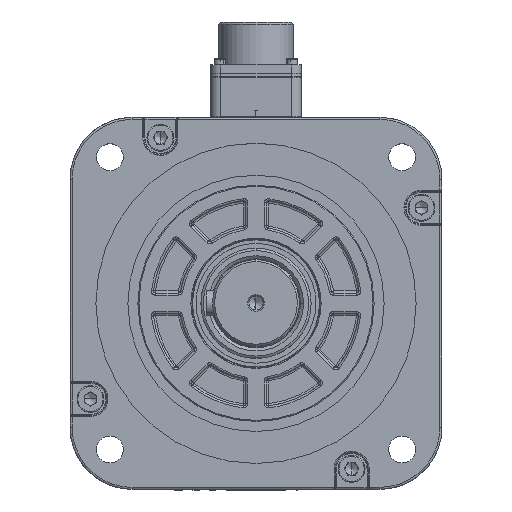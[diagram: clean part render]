
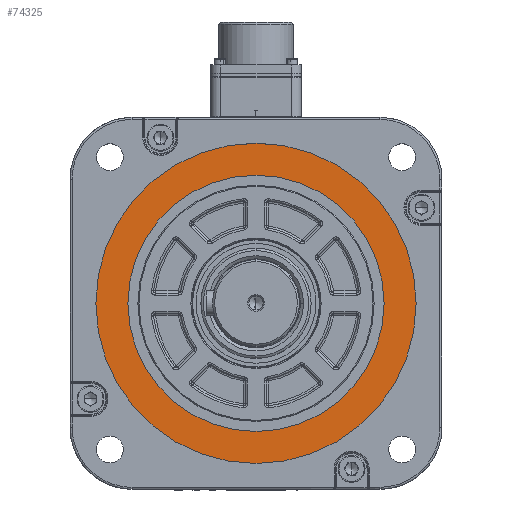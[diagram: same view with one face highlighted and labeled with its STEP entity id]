
A CAD part, top view. The second image highlights one B-rep face of the part: STEP entity #74325.
In plain terms, the highlighted planar face has unit normal (0, 0, 1) as drawn and (0, 0, -1) by its records, which use the part's own axes.
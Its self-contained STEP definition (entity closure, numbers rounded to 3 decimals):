
#2592 = AXIS2_PLACEMENT_3D ( 'NONE', #73674, #164804, #86734 ) ;
#5210 = CARTESIAN_POINT ( 'NONE',  ( -62., 0., 1.5 ) ) ;
#11086 = EDGE_CURVE ( 'NONE', #162761, #46255, #55220, .T. ) ;
#11549 = CARTESIAN_POINT ( 'NONE',  ( 0., 0., 1.5 ) ) ;
#17884 = VERTEX_POINT ( 'NONE', #5210 ) ;
#23169 = CARTESIAN_POINT ( 'NONE',  ( 0., 0., 1.5 ) ) ;
#35400 = CARTESIAN_POINT ( 'NONE',  ( 62., 0., 1.5 ) ) ;
#37935 = AXIS2_PLACEMENT_3D ( 'NONE', #11549, #102463, #141811 ) ;
#42012 = CARTESIAN_POINT ( 'NONE',  ( -77.5, 0., 1.5 ) ) ;
#42253 = EDGE_LOOP ( 'NONE', ( #137726, #152639 ) ) ;
#45480 = ORIENTED_EDGE ( 'NONE', *, *, #11086, .T. ) ;
#45729 = EDGE_LOOP ( 'NONE', ( #45480, #105539 ) ) ;
#46255 = VERTEX_POINT ( 'NONE', #54788 ) ;
#54788 = CARTESIAN_POINT ( 'NONE',  ( 77.5, 0., 1.5 ) ) ;
#55220 = CIRCLE ( 'NONE', #37935, 77.5 ) ;
#57539 = VERTEX_POINT ( 'NONE', #35400 ) ;
#58264 = DIRECTION ( 'NONE',  ( -1., 0., 0. ) ) ;
#72760 = CIRCLE ( 'NONE', #97541, 77.5 ) ;
#73000 = PLANE ( 'NONE',  #135292 ) ;
#73674 = CARTESIAN_POINT ( 'NONE',  ( 0., 0., 1.5 ) ) ;
#74325 = ADVANCED_FACE ( 'NONE', ( #82021, #80047 ), #73000, .T. ) ;
#75407 = DIRECTION ( 'NONE',  ( -1., 0., 0. ) ) ;
#75451 = DIRECTION ( 'NONE',  ( -1., 0., 0. ) ) ;
#80047 = FACE_BOUND ( 'NONE', #42253, .T. ) ;
#82021 = FACE_OUTER_BOUND ( 'NONE', #45729, .T. ) ;
#86734 = DIRECTION ( 'NONE',  ( -1., 0., 0. ) ) ;
#86791 = DIRECTION ( 'NONE',  ( 0., 0., -1. ) ) ;
#92321 = CIRCLE ( 'NONE', #2592, 62. ) ;
#97407 = EDGE_CURVE ( 'NONE', #57539, #17884, #92321, .T. ) ;
#97541 = AXIS2_PLACEMENT_3D ( 'NONE', #165441, #86791, #75407 ) ;
#99106 = CARTESIAN_POINT ( 'NONE',  ( 0., 0., 1.5 ) ) ;
#99658 = DIRECTION ( 'NONE',  ( 0., 0., -1. ) ) ;
#102463 = DIRECTION ( 'NONE',  ( 0., 0., -1. ) ) ;
#105539 = ORIENTED_EDGE ( 'NONE', *, *, #167976, .T. ) ;
#114011 = DIRECTION ( 'NONE',  ( 0., 0., 1. ) ) ;
#121519 = CIRCLE ( 'NONE', #127646, 62. ) ;
#127646 = AXIS2_PLACEMENT_3D ( 'NONE', #23169, #114011, #75451 ) ;
#135292 = AXIS2_PLACEMENT_3D ( 'NONE', #99106, #99658, #58264 ) ;
#137726 = ORIENTED_EDGE ( 'NONE', *, *, #141462, .T. ) ;
#141462 = EDGE_CURVE ( 'NONE', #17884, #57539, #121519, .T. ) ;
#141811 = DIRECTION ( 'NONE',  ( -1., 0., 0. ) ) ;
#152639 = ORIENTED_EDGE ( 'NONE', *, *, #97407, .T. ) ;
#162761 = VERTEX_POINT ( 'NONE', #42012 ) ;
#164804 = DIRECTION ( 'NONE',  ( 0., 0., 1. ) ) ;
#165441 = CARTESIAN_POINT ( 'NONE',  ( 0., 0., 1.5 ) ) ;
#167976 = EDGE_CURVE ( 'NONE', #46255, #162761, #72760, .T. ) ;
